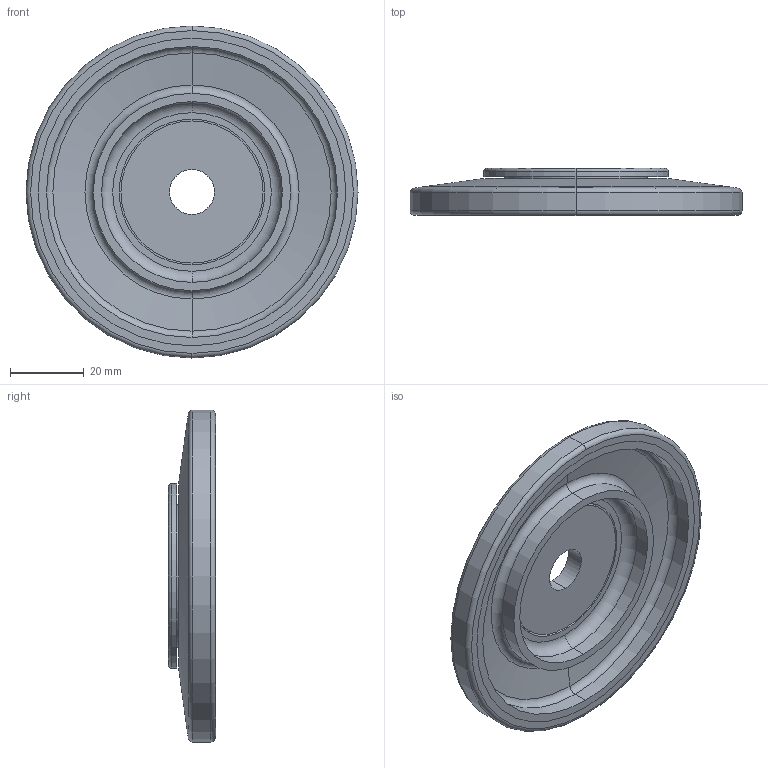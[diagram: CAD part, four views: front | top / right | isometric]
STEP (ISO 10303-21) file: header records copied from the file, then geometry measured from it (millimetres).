
FILE_DESCRIPTION (( 'STEP AP203' ), '1' );
FILE_NAME ('303957_STEP.STEP', '2017-08-24T05:31:04', ( '' ), ( '' ), 'SwSTEP 2.0', 'SolidWorks 2017', '' );
FILE_SCHEMA (( 'CONFIG_CONTROL_DESIGN' ));
Length unit declared in the file: millimetre
Products named in the file (1): 303957_STEP
Bounding box: 90 x 12.75 x 90 mm (x, y, z)
Volume: 29516.8 mm3; surface area: 24047.8 mm2
Topology: 3 solids, 3 shells, 46 faces, 92 edges, 54 vertices
Faces by surface type: cylinder 20, torus 12, plane 8, cone 6
Entity records: 1291 total; most frequent: DIRECTION 252, CARTESIAN_POINT 193, ORIENTED_EDGE 184, AXIS2_PLACEMENT_3D 113, EDGE_CURVE 92, CIRCLE 66, VERTEX_POINT 54, EDGE_LOOP 54
